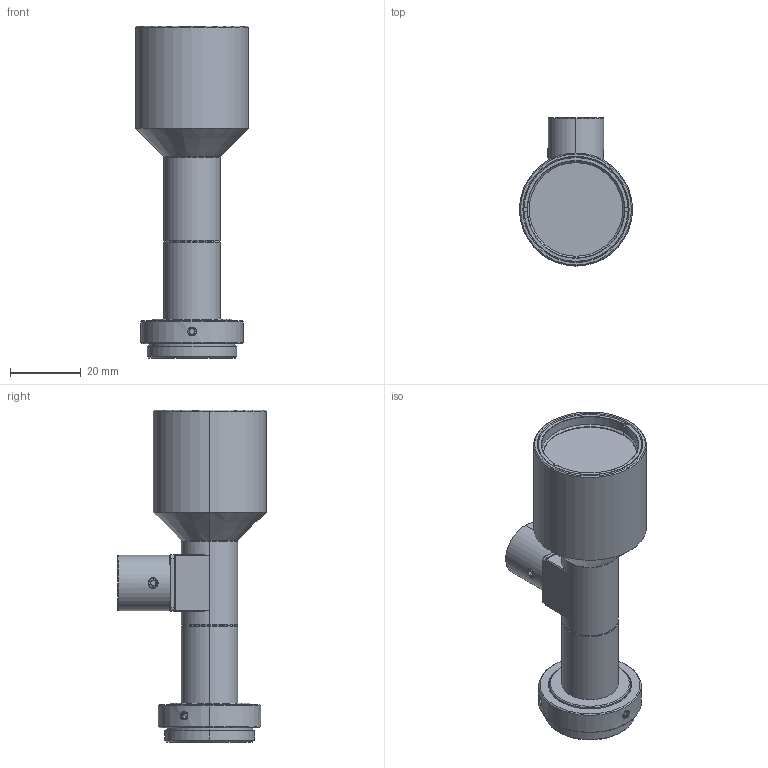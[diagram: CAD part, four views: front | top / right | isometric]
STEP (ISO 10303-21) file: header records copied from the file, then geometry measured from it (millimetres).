
FILE_DESCRIPTION (( 'STEP AP203' ), '1' );
FILE_NAME ('A03910A0000101A-001_203.STEP', '2012-06-29T01:47:18', ( ' ' ), ( ' ' ), 'SwSTEP 2.0', 'SolidWorks 2011', '' );
FILE_SCHEMA (( 'CONFIG_CONTROL_DESIGN' ));
Length unit declared in the file: millimetre
Products named in the file (1): A03910A0000101A-001_203
Bounding box: 32 x 42 x 94.02 mm (x, y, z)
Volume: 41452.3 mm3; surface area: 11440.9 mm2
Topology: 1 solids, 9 shells, 401 faces, 952 edges, 572 vertices
Faces by surface type: plane 170, cone 136, cylinder 71, torus 16, sphere 8
Entity records: 11967 total; most frequent: CARTESIAN_POINT 2643, DIRECTION 2048, ORIENTED_EDGE 1872, EDGE_CURVE 936, AXIS2_PLACEMENT_3D 823, VERTEX_POINT 572, EDGE_LOOP 430, CIRCLE 421
